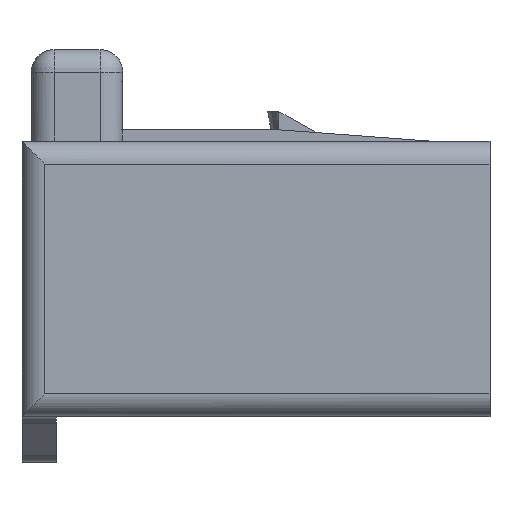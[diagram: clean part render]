
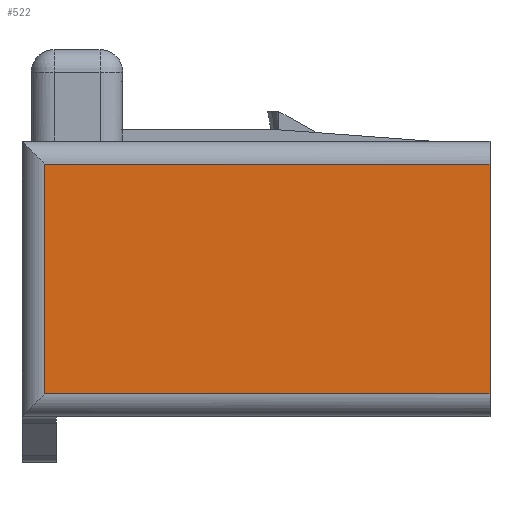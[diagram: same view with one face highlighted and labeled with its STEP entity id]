
A CAD part, front view. The second image highlights one B-rep face of the part: STEP entity #522.
In plain terms, the highlighted planar face has unit normal (0, -1, 0).
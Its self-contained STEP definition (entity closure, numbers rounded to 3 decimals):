
#486=AXIS2_PLACEMENT_3D('Plane Axis2P3D',#483,#484,#485) ;
#483=CARTESIAN_POINT('Axis2P3D Location',(0.,-2.55,2.8)) ;
#488=CARTESIAN_POINT('Line Origine',(0.,-2.55,-3.2)) ;
#492=CARTESIAN_POINT('Vertex',(0.,-2.55,1.8)) ;
#494=CARTESIAN_POINT('Vertex',(0.,-2.55,-8.2)) ;
#497=CARTESIAN_POINT('Line Origine',(-9.7,-2.55,1.8)) ;
#501=CARTESIAN_POINT('Vertex',(-19.4,-2.55,1.8)) ;
#504=CARTESIAN_POINT('Line Origine',(-19.4,-2.55,-3.2)) ;
#508=CARTESIAN_POINT('Vertex',(-19.4,-2.55,-8.2)) ;
#511=CARTESIAN_POINT('Line Origine',(-9.7,-2.55,-8.2)) ;
#484=DIRECTION('Axis2P3D Direction',(0.,-1.,0.)) ;
#485=DIRECTION('Axis2P3D XDirection',(0.,0.,-1.)) ;
#489=DIRECTION('Vector Direction',(0.,0.,-1.)) ;
#498=DIRECTION('Vector Direction',(1.,0.,0.)) ;
#505=DIRECTION('Vector Direction',(0.,0.,-1.)) ;
#512=DIRECTION('Vector Direction',(1.,0.,0.)) ;
#490=VECTOR('Line Direction',#489,1.) ;
#499=VECTOR('Line Direction',#498,1.) ;
#506=VECTOR('Line Direction',#505,1.) ;
#513=VECTOR('Line Direction',#512,1.) ;
#517=ORIENTED_EDGE('',*,*,#496,.F.) ;
#518=ORIENTED_EDGE('',*,*,#503,.T.) ;
#519=ORIENTED_EDGE('',*,*,#510,.T.) ;
#520=ORIENTED_EDGE('',*,*,#515,.T.) ;
#522=ADVANCED_FACE('\X2\FF8AFF9FFF70FF82\X0\ \X2\FF8EFF9EFF83FF9EFF68FF70\X0\',(#521),#487,.T.) ;
#496=EDGE_CURVE('',#493,#495,#491,.T.) ;
#503=EDGE_CURVE('',#493,#502,#500,.F.) ;
#510=EDGE_CURVE('',#502,#509,#507,.T.) ;
#515=EDGE_CURVE('',#509,#495,#514,.T.) ;
#516=EDGE_LOOP('',(#517,#518,#519,#520)) ;
#521=FACE_OUTER_BOUND('',#516,.T.) ;
#491=LINE('Line',#488,#490) ;
#500=LINE('Line',#497,#499) ;
#507=LINE('Line',#504,#506) ;
#514=LINE('Line',#511,#513) ;
#487=PLANE('',#486) ;
#493=VERTEX_POINT('',#492) ;
#495=VERTEX_POINT('',#494) ;
#502=VERTEX_POINT('',#501) ;
#509=VERTEX_POINT('',#508) ;
